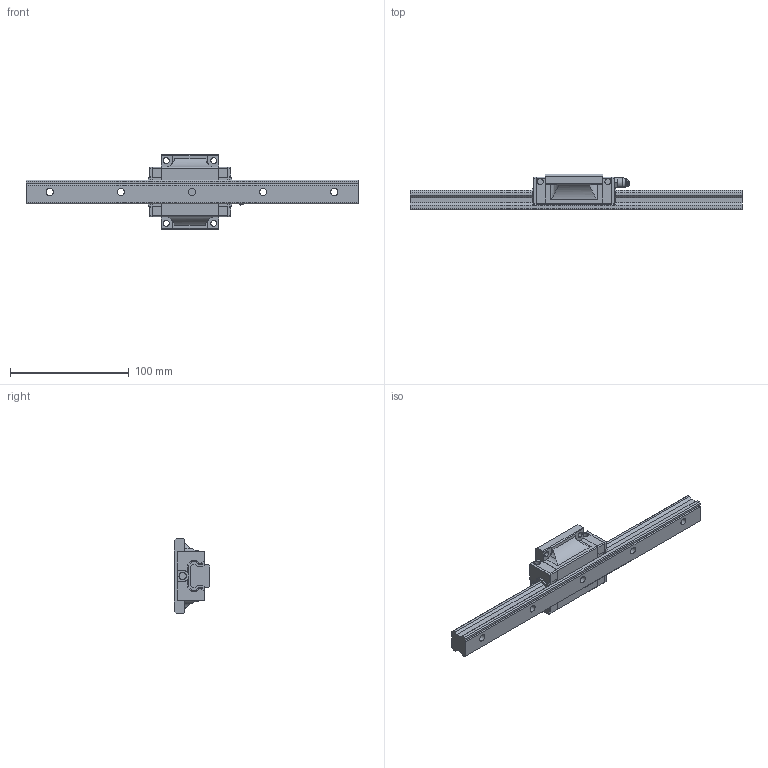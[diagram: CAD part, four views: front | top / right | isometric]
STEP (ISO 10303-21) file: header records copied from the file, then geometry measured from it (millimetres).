
FILE_DESCRIPTION (( 'STEP AP214' ), '1' );
FILE_NAME ('EGH20F.STEP', '2021-06-25T08:23:40', ( '' ), ( '' ), 'SwSTEP 2.0', 'SolidWorks 2019', '' );
FILE_SCHEMA (( 'AUTOMOTIVE_DESIGN' ));
Length unit declared in the file: millimetre
Products named in the file (4): EGH20F; M6グリースニップル; EG20レール; EGH20Fキャリッジ
Assembly tree (3 placements, depth 2):
  EGH20F
    EG20レール
    EGH20Fキャリッジ
    M6グリースニップル
Bounding box: 280 x 30 x 63 mm (x, y, z)
Volume: 144590.4 mm3; surface area: 45179.2 mm2
Topology: 7 solids, 7 shells, 511 faces, 1441 edges, 955 vertices
Faces by surface type: plane 338, cylinder 149, cone 20, torus 3, sphere 1
Full cylindrical faces by diameter (mm): 6 x6, 7.75 x1, 8 x1, 9.5 x5
Entity records: 21880 total; most frequent: CARTESIAN_POINT 3114, ORIENTED_EDGE 2836, DIRECTION 2764, EDGE_CURVE 1418, VECTOR 1072, LINE 1072, VERTEX_POINT 951, AXIS2_PLACEMENT_3D 846
